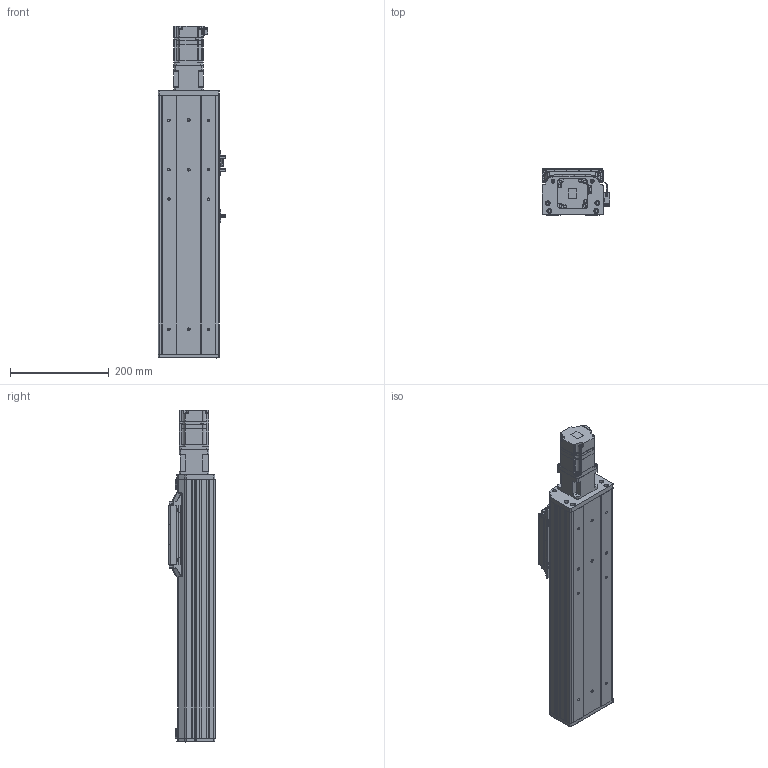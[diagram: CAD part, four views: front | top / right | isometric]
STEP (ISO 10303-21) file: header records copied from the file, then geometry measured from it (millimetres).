
FILE_DESCRIPTION(('Creo Elements/Direct Modeling STEP Export'),'2;1');
FILE_NAME('APCS120SON-ST300.stp','2022-02-18T11:02:24',(''),(''),'Creo Elements/Direct Modeling STEP processor for AP203 (Solid Model)','Creo Elements/Direct Modeling 19.0G 27-Nov-2017 (C) Parametric Technology GmbH','');
FILE_SCHEMA(('CONFIG_CONTROL_DESIGN'));
Length unit declared in the file: millimetre
Products named in the file (16): EE_SX672.1; APCS120_slider_end_cover.1; APCS120_end_cover; APOS120_END_PLATE; p1; p2; APCS120_BASE_FRAME-360L(MOTOR_OUT); APCS120_Carrier; APCS070_MOTOR_BRACKET-200W_400W; SDWA-31C; sgmjv_02a_a21; APCS120_SENSOR_DOG; APCS120SON-1520-ST300-20NN00-N-I3R; APCS120SON-ST300
Assembly tree (18 placements, depth 4):
  APCS120SON-ST300
    APCS120SON-1520-ST300-20NN00-N-I3R
      APCS120_SENSOR_DOG
      sgmjv_02a_a21
      SDWA-31C
      APCS070_MOTOR_BRACKET-200W_400W
      APCS120_Carrier
        p2
        p1
      APCS120_BASE_FRAME-360L(MOTOR_OUT)
        p2
        p1
      APCS120_slider_end_cover.1  x2
      APOS120_END_PLATE
      APCS120_end_cover
      EE_SX672.1  x3
Bounding box: 137.7 x 94 x 673.1 mm (x, y, z)
Volume: 2733549.8 mm3; surface area: 744700.6 mm2
Topology: 15 solids, 47 shells, 2977 faces, 7945 edges, 5083 vertices
Faces by surface type: plane 1508, cylinder 964, cone 262, torus 139, bspline 76, sphere 28
Entity records: 90547 total; most frequent: CARTESIAN_POINT 23633, ORIENTED_EDGE 13610, DIRECTION 13460, EDGE_CURVE 6805, AXIS2_PLACEMENT_3D 4667, VERTEX_POINT 4403, VECTOR 4126, LINE 4126
